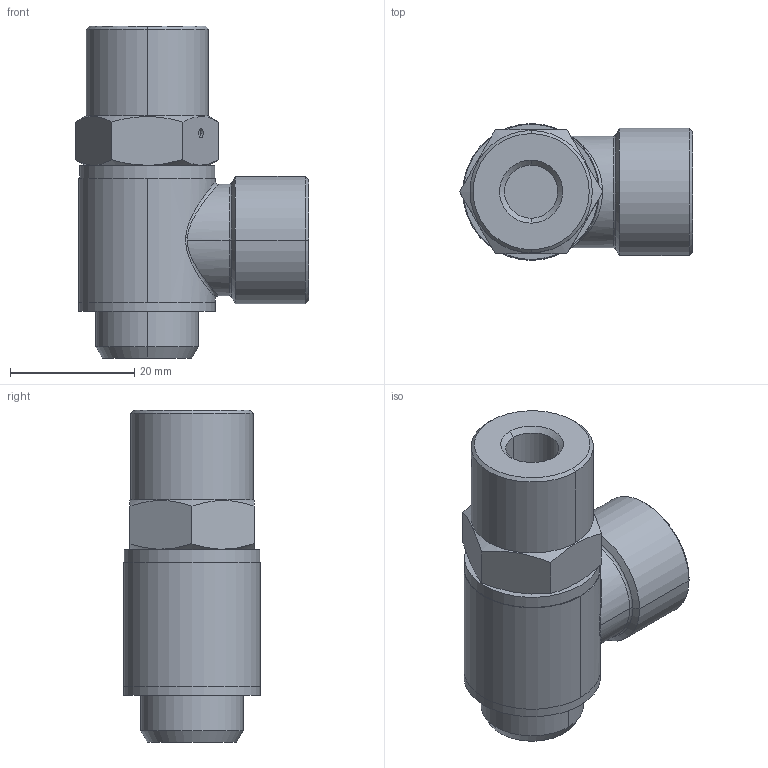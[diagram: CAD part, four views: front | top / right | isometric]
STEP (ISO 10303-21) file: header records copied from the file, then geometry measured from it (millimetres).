
FILE_DESCRIPTION(('Bauteilbeschreibung','HiCAD-Model','HiCAD-STEP-TRANSLATION','Bauteilbeschreibung'),'2;1');
FILE_NAME('B:/ABGLEICH/ZEICHNUNGEN/STEP FÜR INTERNET/STEP/DROSSELHOHLSCHRAUBE MIT RINGSTÜCK IG/304624_DROSSELHOHLSCHRAUBE_RINGSTÜCK_IG_3-8.STP','2012-06-28T10:21:39+00:00',('Konstrukteur'),('Konstrukteur Firma GmbH'),' HiCAD neXt 2008, Step 3.1.1401.2J ','HiCAD neXt 2008','confidential');
FILE_SCHEMA(('AUTOMOTIVE_DESIGN { 1 2 10303 214 0 1 1 1 }'));
Length unit declared in the file: millimetre
Products named in the file (8): A04624_DROSSELHOHLSCHRAUBE_RING; A4350U03; NONE; NONE0; NONE1; A5320003; DICHTRING 3_8; A00044
Assembly tree (7 placements, depth 3):
  A04624_DROSSELHOHLSCHRAUBE_RING
    A4350U03
      NONE
      NONE0
      NONE1
    A5320003
    DICHTRING 3_8
    A00044
Bounding box: 37.55 x 22 x 53.5 mm (x, y, z)
Volume: 18056.9 mm3; surface area: 10186.8 mm2
Topology: 6 solids, 6 shells, 146 faces, 307 edges, 178 vertices
Faces by surface type: cylinder 54, cone 42, plane 30, torus 18, bspline 2
Full cylindrical faces by diameter (mm): 16.7 x1, 17.1 x1, 21.8 x1, 22 x1
Entity records: 6863 total; most frequent: CARTESIAN_POINT 2188, DIRECTION 734, ORIENTED_EDGE 600, AXIS2_PLACEMENT_3D 320, EDGE_CURVE 300, COLOUR_RGB 266, PRESENTATION_STYLE_ASSIGNMENT 266, CURVE_STYLE 260
